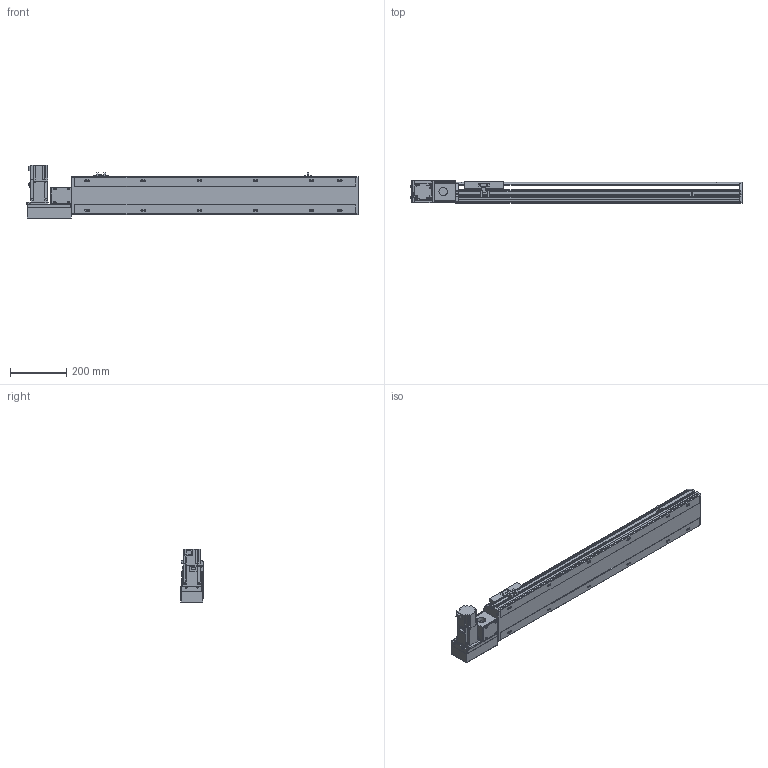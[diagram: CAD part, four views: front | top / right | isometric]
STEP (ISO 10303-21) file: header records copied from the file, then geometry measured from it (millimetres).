
FILE_DESCRIPTION( ( 'STEP AP214' ), '1' );
FILE_NAME( 'x:/temp/worker_27/temp/exporttempdir_6708_294_RZvjO/format_0/PBS140-P40-S750-L-T40-C1-N(0).stp', '2022-06-06T01:01:13', ( 'License CC BY-ND 4.0' ), ( 'CADENAS' ), ' ', 'PARTsolutions', ' ' );
FILE_SCHEMA( ( 'AUTOMOTIVE_DESIGN { 1 0 10303 214 1 1 1 1 }' ) );
Length unit declared in the file: millimetre
Products named in the file (7): PBS140-P40-S750-L-T40-C1-N(0); _PBS140-S750()_body; _PBS140T-L_motors; _T40-p1; _PBS140_sliser; _PBS140_plant; _PBS140_sensor
Assembly tree (8 placements, depth 2):
  PBS140-P40-S750-L-T40-C1-N(0)
    _PBS140-S750()_body
    _PBS140T-L_motors
    _T40-p1
    _PBS140_sliser
    _PBS140_plant
    _PBS140_sensor  x3
Bounding box: 1183 x 80.5 x 189.7 mm (x, y, z)
Volume: 5464442.8 mm3; surface area: 966528.6 mm2
Topology: 8 solids, 8 shells, 1043 faces, 2756 edges, 1801 vertices
Faces by surface type: plane 680, cylinder 315, cone 38, sphere 8, torus 2
Full cylindrical faces by diameter (mm): 3.242 x4, 4 x2, 4.134 x4, 4.4 x8, 4.5 x2, 4.8 x4, 4.917 x20, 5.5 x7, 6 x2, 7 x14, 7.5 x8, 8 x12, 8.5 x4, 10.5 x12, 14 x1, 30 x2, 50 x2
Entity records: 38005 total; most frequent: CARTESIAN_POINT 5915, DIRECTION 5057, ORIENTED_EDGE 4792, EDGE_CURVE 2396, AXIS2_PLACEMENT_3D 1747, VERTEX_POINT 1653, LINE 1563, VECTOR 1563
